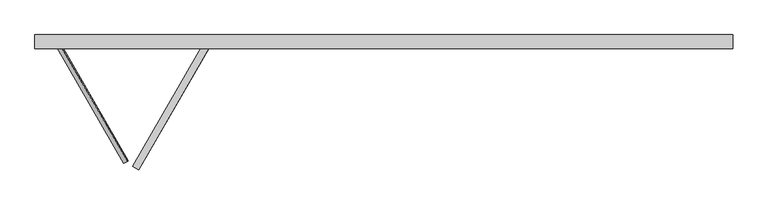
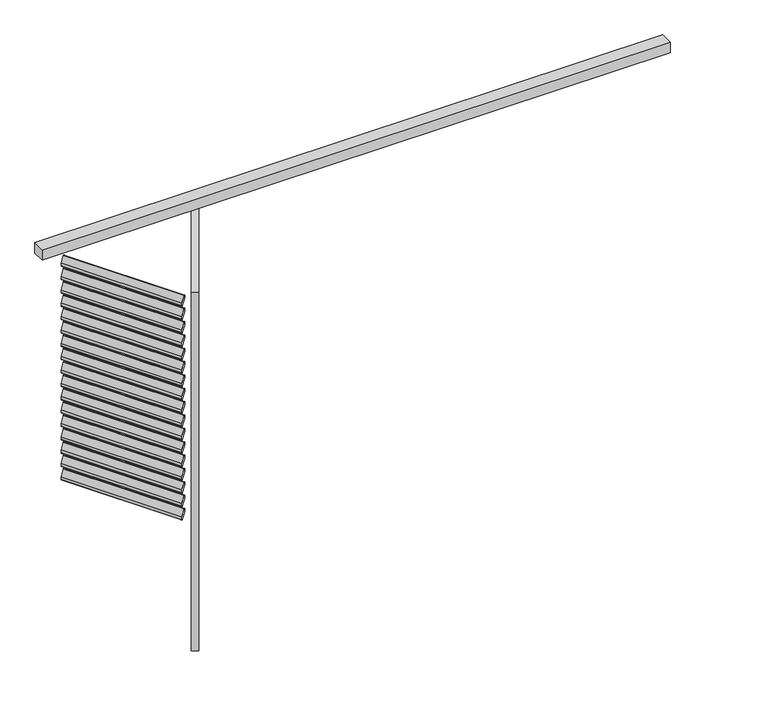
"""IFC4 building model written with IfcOpenShell, lengths in millimetres: proxy geometry, Renson_Amani_Loggia_Paro_Aluminium_Folding : Renson_Amani_Loggia_Paro_Aluminium_Folding."""

from ifc_helpers import new_model, si_unit, point, frame, frame_2d, origin, place, context, project, spatial, polyline, circle_curve, trimmed, segment, composite_curve, outline, extrude, source, transform, mapped, element, save


def generic_models_ddcf315a(model_context):
    return source(origin(), model_context, "Body", "SweptSolid", [
        extrude(outline(polyline([(3900.0, 776.1215932), (3900.0, 696.1215932), (-100.0, 696.1215932), (-100.0, 776.1215932), (3900.0, 776.1215932)])), frame((0.0, 0.0, 2465.0), z_axis=(0.0, 0.0, 1.0), x_axis=(1.0, 0.0, 0.0)), (0.0, 0.0, 1.0), 70.0),
        extrude(outline(composite_curve([segment(trimmed(circle_curve(frame_2d((44.0658831, -3.0)), 3.0), [point((44.0658831, 0.0))], [point((45.6998002, -5.5160117))], False, "CARTESIAN"), True, "CONTINUOUS"), segment(polyline([(45.6998002, -5.5160117), (30.3011505, -15.5160117)]), True, "CONTINUOUS"), segment(trimmed(circle_curve(frame_2d((28.6672334, -13.0)), 3.0), [point((30.3011505, -15.5160117))], [point((28.6672334, -16.0))], False, "CARTESIAN"), True, "CONTINUOUS"), segment(polyline([(28.6672334, -16.0), (-15.3986496, -16.0)]), True, "CONTINUOUS"), segment(trimmed(circle_curve(frame_2d((-15.3986496, -13.0)), 3.0), [point((-15.3986496, -16.0))], [point((-17.0325667, -10.4839883))], False, "CARTESIAN"), True, "CONTINUOUS"), segment(polyline([(-17.0325667, -10.4839883), (-0.8886405, 0.0), (44.0658831, 0.0)]), True, "CONTINUOUS")], self_intersect=False)), frame((508.9546074, 37.7168064, 2397.3359298), z_axis=(0.5000000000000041, 0.8660254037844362, 0.0), x_axis=(-0.47167124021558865, 0.2723195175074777, 0.8386705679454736)), (0.0, 0.0, 1.0), 770.0),
        extrude(outline(composite_curve([segment(trimmed(circle_curve(frame_2d((44.0658831, -3.0)), 3.0), [point((44.0658831, 0.0))], [point((45.6998002, -5.5160117))], False, "CARTESIAN"), True, "CONTINUOUS"), segment(polyline([(45.6998002, -5.5160117), (30.3011505, -15.5160117)]), True, "CONTINUOUS"), segment(trimmed(circle_curve(frame_2d((28.6672334, -13.0)), 3.0), [point((30.3011505, -15.5160117))], [point((28.6672334, -16.0))], False, "CARTESIAN"), True, "CONTINUOUS"), segment(polyline([(28.6672334, -16.0), (-15.3986496, -16.0)]), True, "CONTINUOUS"), segment(trimmed(circle_curve(frame_2d((-15.3986496, -13.0)), 3.0), [point((-15.3986496, -16.0))], [point((-17.0325667, -10.4839883))], False, "CARTESIAN"), True, "CONTINUOUS"), segment(polyline([(-17.0325667, -10.4839883), (-0.8886405, 0.0), (44.0658831, 0.0)]), True, "CONTINUOUS")], self_intersect=False)), frame((508.9546074, 37.7168064, 2307.3359298), z_axis=(0.5000000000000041, 0.8660254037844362, 0.0), x_axis=(-0.47167124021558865, 0.2723195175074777, 0.8386705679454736)), (0.0, 0.0, 1.0), 770.0),
        extrude(outline(composite_curve([segment(trimmed(circle_curve(frame_2d((44.0658831, -3.0)), 3.0), [point((44.0658831, 0.0))], [point((45.6998002, -5.5160117))], False, "CARTESIAN"), True, "CONTINUOUS"), segment(polyline([(45.6998002, -5.5160117), (30.3011505, -15.5160117)]), True, "CONTINUOUS"), segment(trimmed(circle_curve(frame_2d((28.6672334, -13.0)), 3.0), [point((30.3011505, -15.5160117))], [point((28.6672334, -16.0))], False, "CARTESIAN"), True, "CONTINUOUS"), segment(polyline([(28.6672334, -16.0), (-15.3986496, -16.0)]), True, "CONTINUOUS"), segment(trimmed(circle_curve(frame_2d((-15.3986496, -13.0)), 3.0), [point((-15.3986496, -16.0))], [point((-17.0325667, -10.4839883))], False, "CARTESIAN"), True, "CONTINUOUS"), segment(polyline([(-17.0325667, -10.4839883), (-0.8886405, 0.0), (44.0658831, 0.0)]), True, "CONTINUOUS")], self_intersect=False)), frame((508.9546074, 37.7168064, 2217.3359298), z_axis=(0.5000000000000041, 0.8660254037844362, 0.0), x_axis=(-0.47167124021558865, 0.2723195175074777, 0.8386705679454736)), (0.0, 0.0, 1.0), 770.0),
        extrude(outline(composite_curve([segment(trimmed(circle_curve(frame_2d((44.0658831, -3.0)), 3.0), [point((44.0658831, 0.0))], [point((45.6998002, -5.5160117))], False, "CARTESIAN"), True, "CONTINUOUS"), segment(polyline([(45.6998002, -5.5160117), (30.3011505, -15.5160117)]), True, "CONTINUOUS"), segment(trimmed(circle_curve(frame_2d((28.6672334, -13.0)), 3.0), [point((30.3011505, -15.5160117))], [point((28.6672334, -16.0))], False, "CARTESIAN"), True, "CONTINUOUS"), segment(polyline([(28.6672334, -16.0), (-15.3986496, -16.0)]), True, "CONTINUOUS"), segment(trimmed(circle_curve(frame_2d((-15.3986496, -13.0)), 3.0), [point((-15.3986496, -16.0))], [point((-17.0325667, -10.4839883))], False, "CARTESIAN"), True, "CONTINUOUS"), segment(polyline([(-17.0325667, -10.4839883), (-0.8886405, 0.0), (44.0658831, 0.0)]), True, "CONTINUOUS")], self_intersect=False)), frame((508.9546074, 37.7168064, 2127.3359298), z_axis=(0.5000000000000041, 0.8660254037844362, 0.0), x_axis=(-0.47167124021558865, 0.2723195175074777, 0.8386705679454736)), (0.0, 0.0, 1.0), 770.0),
        extrude(outline(composite_curve([segment(trimmed(circle_curve(frame_2d((44.0658831, -3.0)), 3.0), [point((44.0658831, 0.0))], [point((45.6998002, -5.5160117))], False, "CARTESIAN"), True, "CONTINUOUS"), segment(polyline([(45.6998002, -5.5160117), (30.3011505, -15.5160117)]), True, "CONTINUOUS"), segment(trimmed(circle_curve(frame_2d((28.6672334, -13.0)), 3.0), [point((30.3011505, -15.5160117))], [point((28.6672334, -16.0))], False, "CARTESIAN"), True, "CONTINUOUS"), segment(polyline([(28.6672334, -16.0), (-15.3986496, -16.0)]), True, "CONTINUOUS"), segment(trimmed(circle_curve(frame_2d((-15.3986496, -13.0)), 3.0), [point((-15.3986496, -16.0))], [point((-17.0325667, -10.4839883))], False, "CARTESIAN"), True, "CONTINUOUS"), segment(polyline([(-17.0325667, -10.4839883), (-0.8886405, 0.0), (44.0658831, 0.0)]), True, "CONTINUOUS")], self_intersect=False)), frame((508.9546074, 37.7168064, 2037.3359298), z_axis=(0.5000000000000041, 0.8660254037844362, 0.0), x_axis=(-0.47167124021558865, 0.2723195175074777, 0.8386705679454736)), (0.0, 0.0, 1.0), 770.0),
        extrude(outline(composite_curve([segment(trimmed(circle_curve(frame_2d((44.0658831, -3.0)), 3.0), [point((44.0658831, 0.0))], [point((45.6998002, -5.5160117))], False, "CARTESIAN"), True, "CONTINUOUS"), segment(polyline([(45.6998002, -5.5160117), (30.3011505, -15.5160117)]), True, "CONTINUOUS"), segment(trimmed(circle_curve(frame_2d((28.6672334, -13.0)), 3.0), [point((30.3011505, -15.5160117))], [point((28.6672334, -16.0))], False, "CARTESIAN"), True, "CONTINUOUS"), segment(polyline([(28.6672334, -16.0), (-15.3986496, -16.0)]), True, "CONTINUOUS"), segment(trimmed(circle_curve(frame_2d((-15.3986496, -13.0)), 3.0), [point((-15.3986496, -16.0))], [point((-17.0325667, -10.4839883))], False, "CARTESIAN"), True, "CONTINUOUS"), segment(polyline([(-17.0325667, -10.4839883), (-0.8886405, 0.0), (44.0658831, 0.0)]), True, "CONTINUOUS")], self_intersect=False)), frame((508.9546074, 37.7168064, 1947.3359298), z_axis=(0.5000000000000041, 0.8660254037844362, 0.0), x_axis=(-0.47167124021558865, 0.2723195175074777, 0.8386705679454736)), (0.0, 0.0, 1.0), 770.0),
        extrude(outline(composite_curve([segment(trimmed(circle_curve(frame_2d((44.0658831, -3.0)), 3.0), [point((44.0658831, 0.0))], [point((45.6998002, -5.5160117))], False, "CARTESIAN"), True, "CONTINUOUS"), segment(polyline([(45.6998002, -5.5160117), (30.3011505, -15.5160117)]), True, "CONTINUOUS"), segment(trimmed(circle_curve(frame_2d((28.6672334, -13.0)), 3.0), [point((30.3011505, -15.5160117))], [point((28.6672334, -16.0))], False, "CARTESIAN"), True, "CONTINUOUS"), segment(polyline([(28.6672334, -16.0), (-15.3986496, -16.0)]), True, "CONTINUOUS"), segment(trimmed(circle_curve(frame_2d((-15.3986496, -13.0)), 3.0), [point((-15.3986496, -16.0))], [point((-17.0325667, -10.4839883))], False, "CARTESIAN"), True, "CONTINUOUS"), segment(polyline([(-17.0325667, -10.4839883), (-0.8886405, 0.0), (44.0658831, 0.0)]), True, "CONTINUOUS")], self_intersect=False)), frame((508.9546074, 37.7168064, 1857.3359298), z_axis=(0.5000000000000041, 0.8660254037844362, 0.0), x_axis=(-0.47167124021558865, 0.2723195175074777, 0.8386705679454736)), (0.0, 0.0, 1.0), 770.0),
        extrude(outline(composite_curve([segment(trimmed(circle_curve(frame_2d((44.0658831, -3.0)), 3.0), [point((44.0658831, 0.0))], [point((45.6998002, -5.5160117))], False, "CARTESIAN"), True, "CONTINUOUS"), segment(polyline([(45.6998002, -5.5160117), (30.3011505, -15.5160117)]), True, "CONTINUOUS"), segment(trimmed(circle_curve(frame_2d((28.6672334, -13.0)), 3.0), [point((30.3011505, -15.5160117))], [point((28.6672334, -16.0))], False, "CARTESIAN"), True, "CONTINUOUS"), segment(polyline([(28.6672334, -16.0), (-15.3986496, -16.0)]), True, "CONTINUOUS"), segment(trimmed(circle_curve(frame_2d((-15.3986496, -13.0)), 3.0), [point((-15.3986496, -16.0))], [point((-17.0325667, -10.4839883))], False, "CARTESIAN"), True, "CONTINUOUS"), segment(polyline([(-17.0325667, -10.4839883), (-0.8886405, 0.0), (44.0658831, 0.0)]), True, "CONTINUOUS")], self_intersect=False)), frame((508.9546074, 37.7168064, 1767.3359298), z_axis=(0.5000000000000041, 0.8660254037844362, 0.0), x_axis=(-0.47167124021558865, 0.2723195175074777, 0.8386705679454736)), (0.0, 0.0, 1.0), 770.0),
        extrude(outline(composite_curve([segment(trimmed(circle_curve(frame_2d((44.0658831, -3.0)), 3.0), [point((44.0658831, 0.0))], [point((45.6998002, -5.5160117))], False, "CARTESIAN"), True, "CONTINUOUS"), segment(polyline([(45.6998002, -5.5160117), (30.3011505, -15.5160117)]), True, "CONTINUOUS"), segment(trimmed(circle_curve(frame_2d((28.6672334, -13.0)), 3.0), [point((30.3011505, -15.5160117))], [point((28.6672334, -16.0))], False, "CARTESIAN"), True, "CONTINUOUS"), segment(polyline([(28.6672334, -16.0), (-15.3986496, -16.0)]), True, "CONTINUOUS"), segment(trimmed(circle_curve(frame_2d((-15.3986496, -13.0)), 3.0), [point((-15.3986496, -16.0))], [point((-17.0325667, -10.4839883))], False, "CARTESIAN"), True, "CONTINUOUS"), segment(polyline([(-17.0325667, -10.4839883), (-0.8886405, 0.0), (44.0658831, 0.0)]), True, "CONTINUOUS")], self_intersect=False)), frame((508.9546074, 37.7168064, 1677.3359298), z_axis=(0.5000000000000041, 0.8660254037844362, 0.0), x_axis=(-0.47167124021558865, 0.2723195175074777, 0.8386705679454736)), (0.0, 0.0, 1.0), 770.0),
        extrude(outline(composite_curve([segment(trimmed(circle_curve(frame_2d((44.0658831, -3.0)), 3.0), [point((44.0658831, 0.0))], [point((45.6998002, -5.5160117))], False, "CARTESIAN"), True, "CONTINUOUS"), segment(polyline([(45.6998002, -5.5160117), (30.3011505, -15.5160117)]), True, "CONTINUOUS"), segment(trimmed(circle_curve(frame_2d((28.6672334, -13.0)), 3.0), [point((30.3011505, -15.5160117))], [point((28.6672334, -16.0))], False, "CARTESIAN"), True, "CONTINUOUS"), segment(polyline([(28.6672334, -16.0), (-15.3986496, -16.0)]), True, "CONTINUOUS"), segment(trimmed(circle_curve(frame_2d((-15.3986496, -13.0)), 3.0), [point((-15.3986496, -16.0))], [point((-17.0325667, -10.4839883))], False, "CARTESIAN"), True, "CONTINUOUS"), segment(polyline([(-17.0325667, -10.4839883), (-0.8886405, 0.0), (44.0658831, 0.0)]), True, "CONTINUOUS")], self_intersect=False)), frame((508.9546074, 37.7168064, 1587.3359298), z_axis=(0.5000000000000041, 0.8660254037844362, 0.0), x_axis=(-0.47167124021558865, 0.2723195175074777, 0.8386705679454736)), (0.0, 0.0, 1.0), 770.0),
        extrude(outline(composite_curve([segment(trimmed(circle_curve(frame_2d((44.0658831, -3.0)), 3.0), [point((44.0658831, 0.0))], [point((45.6998002, -5.5160117))], False, "CARTESIAN"), True, "CONTINUOUS"), segment(polyline([(45.6998002, -5.5160117), (30.3011505, -15.5160117)]), True, "CONTINUOUS"), segment(trimmed(circle_curve(frame_2d((28.6672334, -13.0)), 3.0), [point((30.3011505, -15.5160117))], [point((28.6672334, -16.0))], False, "CARTESIAN"), True, "CONTINUOUS"), segment(polyline([(28.6672334, -16.0), (-15.3986496, -16.0)]), True, "CONTINUOUS"), segment(trimmed(circle_curve(frame_2d((-15.3986496, -13.0)), 3.0), [point((-15.3986496, -16.0))], [point((-17.0325667, -10.4839883))], False, "CARTESIAN"), True, "CONTINUOUS"), segment(polyline([(-17.0325667, -10.4839883), (-0.8886405, 0.0), (44.0658831, 0.0)]), True, "CONTINUOUS")], self_intersect=False)), frame((508.9546074, 37.7168064, 1497.3359298), z_axis=(0.5000000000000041, 0.8660254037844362, 0.0), x_axis=(-0.47167124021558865, 0.2723195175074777, 0.8386705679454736)), (0.0, 0.0, 1.0), 770.0),
        extrude(outline(composite_curve([segment(trimmed(circle_curve(frame_2d((44.0658831, -3.0)), 3.0), [point((44.0658831, 0.0))], [point((45.6998002, -5.5160117))], False, "CARTESIAN"), True, "CONTINUOUS"), segment(polyline([(45.6998002, -5.5160117), (30.3011505, -15.5160117)]), True, "CONTINUOUS"), segment(trimmed(circle_curve(frame_2d((28.6672334, -13.0)), 3.0), [point((30.3011505, -15.5160117))], [point((28.6672334, -16.0))], False, "CARTESIAN"), True, "CONTINUOUS"), segment(polyline([(28.6672334, -16.0), (-15.3986496, -16.0)]), True, "CONTINUOUS"), segment(trimmed(circle_curve(frame_2d((-15.3986496, -13.0)), 3.0), [point((-15.3986496, -16.0))], [point((-17.0325667, -10.4839883))], False, "CARTESIAN"), True, "CONTINUOUS"), segment(polyline([(-17.0325667, -10.4839883), (-0.8886405, 0.0), (44.0658831, 0.0)]), True, "CONTINUOUS")], self_intersect=False)), frame((508.9546074, 37.7168064, 1407.3359298), z_axis=(0.5000000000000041, 0.8660254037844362, 0.0), x_axis=(-0.47167124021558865, 0.2723195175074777, 0.8386705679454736)), (0.0, 0.0, 1.0), 770.0),
        extrude(outline(composite_curve([segment(trimmed(circle_curve(frame_2d((44.0658831, -3.0)), 3.0), [point((44.0658831, 0.0))], [point((45.6998002, -5.5160117))], False, "CARTESIAN"), True, "CONTINUOUS"), segment(polyline([(45.6998002, -5.5160117), (30.3011505, -15.5160117)]), True, "CONTINUOUS"), segment(trimmed(circle_curve(frame_2d((28.6672334, -13.0)), 3.0), [point((30.3011505, -15.5160117))], [point((28.6672334, -16.0))], False, "CARTESIAN"), True, "CONTINUOUS"), segment(polyline([(28.6672334, -16.0), (-15.3986496, -16.0)]), True, "CONTINUOUS"), segment(trimmed(circle_curve(frame_2d((-15.3986496, -13.0)), 3.0), [point((-15.3986496, -16.0))], [point((-17.0325667, -10.4839883))], False, "CARTESIAN"), True, "CONTINUOUS"), segment(polyline([(-17.0325667, -10.4839883), (-0.8886405, 0.0), (44.0658831, 0.0)]), True, "CONTINUOUS")], self_intersect=False)), frame((508.9546074, 37.7168064, 1317.3359298), z_axis=(0.5000000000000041, 0.8660254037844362, 0.0), x_axis=(-0.47167124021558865, 0.2723195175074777, 0.8386705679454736)), (0.0, 0.0, 1.0), 770.0),
        extrude(outline(composite_curve([segment(trimmed(circle_curve(frame_2d((44.0658831, -3.0)), 3.0), [point((44.0658831, 0.0))], [point((45.6998002, -5.5160117))], False, "CARTESIAN"), True, "CONTINUOUS"), segment(polyline([(45.6998002, -5.5160117), (30.3011505, -15.5160117)]), True, "CONTINUOUS"), segment(trimmed(circle_curve(frame_2d((28.6672334, -13.0)), 3.0), [point((30.3011505, -15.5160117))], [point((28.6672334, -16.0))], False, "CARTESIAN"), True, "CONTINUOUS"), segment(polyline([(28.6672334, -16.0), (-15.3986496, -16.0)]), True, "CONTINUOUS"), segment(trimmed(circle_curve(frame_2d((-15.3986496, -13.0)), 3.0), [point((-15.3986496, -16.0))], [point((-17.0325667, -10.4839883))], False, "CARTESIAN"), True, "CONTINUOUS"), segment(polyline([(-17.0325667, -10.4839883), (-0.8886405, 0.0), (44.0658831, 0.0)]), True, "CONTINUOUS")], self_intersect=False)), frame((508.9546074, 37.7168064, 1227.3359298), z_axis=(0.5000000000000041, 0.8660254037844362, 0.0), x_axis=(-0.47167124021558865, 0.2723195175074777, 0.8386705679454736)), (0.0, 0.0, 1.0), 770.0),
        extrude(outline(composite_curve([segment(trimmed(circle_curve(frame_2d((44.0658831, -3.0)), 3.0), [point((44.0658831, 0.0))], [point((45.6998002, -5.5160117))], False, "CARTESIAN"), True, "CONTINUOUS"), segment(polyline([(45.6998002, -5.5160117), (30.3011505, -15.5160117)]), True, "CONTINUOUS"), segment(trimmed(circle_curve(frame_2d((28.6672334, -13.0)), 3.0), [point((30.3011505, -15.5160117))], [point((28.6672334, -16.0))], False, "CARTESIAN"), True, "CONTINUOUS"), segment(polyline([(28.6672334, -16.0), (-15.3986496, -16.0)]), True, "CONTINUOUS"), segment(trimmed(circle_curve(frame_2d((-15.3986496, -13.0)), 3.0), [point((-15.3986496, -16.0))], [point((-17.0325667, -10.4839883))], False, "CARTESIAN"), True, "CONTINUOUS"), segment(polyline([(-17.0325667, -10.4839883), (-0.8886405, 0.0), (44.0658831, 0.0)]), True, "CONTINUOUS")], self_intersect=False)), frame((508.9546074, 37.7168064, 1137.3359298), z_axis=(0.5000000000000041, 0.8660254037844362, 0.0), x_axis=(-0.47167124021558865, 0.2723195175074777, 0.8386705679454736)), (0.0, 0.0, 1.0), 770.0),
        extrude(outline(composite_curve([segment(trimmed(circle_curve(frame_2d((44.0658831, -3.0)), 3.0), [point((44.0658831, 0.0))], [point((45.6998002, -5.5160117))], False, "CARTESIAN"), True, "CONTINUOUS"), segment(polyline([(45.6998002, -5.5160117), (30.3011505, -15.5160117)]), True, "CONTINUOUS"), segment(trimmed(circle_curve(frame_2d((28.6672334, -13.0)), 3.0), [point((30.3011505, -15.5160117))], [point((28.6672334, -16.0))], False, "CARTESIAN"), True, "CONTINUOUS"), segment(polyline([(28.6672334, -16.0), (-15.3986496, -16.0)]), True, "CONTINUOUS"), segment(trimmed(circle_curve(frame_2d((-15.3986496, -13.0)), 3.0), [point((-15.3986496, -16.0))], [point((-17.0325667, -10.4839883))], False, "CARTESIAN"), True, "CONTINUOUS"), segment(polyline([(-17.0325667, -10.4839883), (-0.8886405, 0.0), (44.0658831, 0.0)]), True, "CONTINUOUS")], self_intersect=False)), frame((508.9546074, 37.7168064, 1047.3359298), z_axis=(0.5000000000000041, 0.8660254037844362, 0.0), x_axis=(-0.47167124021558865, 0.2723195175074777, 0.8386705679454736)), (0.0, 0.0, 1.0), 770.0),
        extrude(outline(composite_curve([segment(trimmed(circle_curve(frame_2d((44.0658831, -3.0)), 3.0), [point((44.0658831, 0.0))], [point((45.6998002, -5.5160117))], False, "CARTESIAN"), True, "CONTINUOUS"), segment(polyline([(45.6998002, -5.5160117), (30.3011505, -15.5160117)]), True, "CONTINUOUS"), segment(trimmed(circle_curve(frame_2d((28.6672334, -13.0)), 3.0), [point((30.3011505, -15.5160117))], [point((28.6672334, -16.0))], False, "CARTESIAN"), True, "CONTINUOUS"), segment(polyline([(28.6672334, -16.0), (-15.3986496, -16.0)]), True, "CONTINUOUS"), segment(trimmed(circle_curve(frame_2d((-15.3986496, -13.0)), 3.0), [point((-15.3986496, -16.0))], [point((-17.0325667, -10.4839883))], False, "CARTESIAN"), True, "CONTINUOUS"), segment(polyline([(-17.0325667, -10.4839883), (-0.8886405, 0.0), (44.0658831, 0.0)]), True, "CONTINUOUS")], self_intersect=False)), frame((508.9546074, 37.7168064, 957.3359298), z_axis=(0.5000000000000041, 0.8660254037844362, 0.0), x_axis=(-0.47167124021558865, 0.2723195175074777, 0.8386705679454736)), (0.0, 0.0, 1.0), 770.0),
        extrude(outline(composite_curve([segment(trimmed(circle_curve(frame_2d((44.0658831, -3.0)), 3.0), [point((44.0658831, 0.0))], [point((45.6998002, -5.5160117))], False, "CARTESIAN"), True, "CONTINUOUS"), segment(polyline([(45.6998002, -5.5160117), (30.3011505, -15.5160117)]), True, "CONTINUOUS"), segment(trimmed(circle_curve(frame_2d((28.6672334, -13.0)), 3.0), [point((30.3011505, -15.5160117))], [point((28.6672334, -16.0))], False, "CARTESIAN"), True, "CONTINUOUS"), segment(polyline([(28.6672334, -16.0), (-15.3986496, -16.0)]), True, "CONTINUOUS"), segment(trimmed(circle_curve(frame_2d((-15.3986496, -13.0)), 3.0), [point((-15.3986496, -16.0))], [point((-17.0325667, -10.4839883))], False, "CARTESIAN"), True, "CONTINUOUS"), segment(polyline([(-17.0325667, -10.4839883), (-0.8886405, 0.0), (44.0658831, 0.0)]), True, "CONTINUOUS")], self_intersect=False)), frame((508.9546074, 37.7168064, 867.3359298), z_axis=(0.5000000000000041, 0.8660254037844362, 0.0), x_axis=(-0.47167124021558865, 0.2723195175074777, 0.8386705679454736)), (0.0, 0.0, 1.0), 770.0),
        extrude(outline(composite_curve([segment(trimmed(circle_curve(frame_2d((44.0658831, -3.0)), 3.0), [point((44.0658831, 0.0))], [point((45.6998002, -5.5160117))], False, "CARTESIAN"), True, "CONTINUOUS"), segment(polyline([(45.6998002, -5.5160117), (30.3011505, -15.5160117)]), True, "CONTINUOUS"), segment(trimmed(circle_curve(frame_2d((28.6672334, -13.0)), 3.0), [point((30.3011505, -15.5160117))], [point((28.6672334, -16.0))], False, "CARTESIAN"), True, "CONTINUOUS"), segment(polyline([(28.6672334, -16.0), (-15.3986496, -16.0)]), True, "CONTINUOUS"), segment(trimmed(circle_curve(frame_2d((-15.3986496, -13.0)), 3.0), [point((-15.3986496, -16.0))], [point((-17.0325667, -10.4839883))], False, "CARTESIAN"), True, "CONTINUOUS"), segment(polyline([(-17.0325667, -10.4839883), (-0.8886405, 0.0), (44.0658831, 0.0)]), True, "CONTINUOUS")], self_intersect=False)), frame((508.9546074, 37.7168064, 777.3359298), z_axis=(0.5000000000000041, 0.8660254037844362, 0.0), x_axis=(-0.47167124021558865, 0.2723195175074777, 0.8386705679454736)), (0.0, 0.0, 1.0), 770.0),
        extrude(outline(composite_curve([segment(trimmed(circle_curve(frame_2d((44.0658831, -3.0)), 3.0), [point((44.0658831, 0.0))], [point((45.6998002, -5.5160117))], False, "CARTESIAN"), True, "CONTINUOUS"), segment(polyline([(45.6998002, -5.5160117), (30.3011505, -15.5160117)]), True, "CONTINUOUS"), segment(trimmed(circle_curve(frame_2d((28.6672334, -13.0)), 3.0), [point((30.3011505, -15.5160117))], [point((28.6672334, -16.0))], False, "CARTESIAN"), True, "CONTINUOUS"), segment(polyline([(28.6672334, -16.0), (-15.3986496, -16.0)]), True, "CONTINUOUS"), segment(trimmed(circle_curve(frame_2d((-15.3986496, -13.0)), 3.0), [point((-15.3986496, -16.0))], [point((-17.0325667, -10.4839883))], False, "CARTESIAN"), True, "CONTINUOUS"), segment(polyline([(-17.0325667, -10.4839883), (-0.8886405, 0.0), (44.0658831, 0.0)]), True, "CONTINUOUS")], self_intersect=False)), frame((508.9546074, 37.7168064, 687.3359298), z_axis=(0.5000000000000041, 0.8660254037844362, 0.0), x_axis=(-0.47167124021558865, 0.2723195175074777, 0.8386705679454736)), (0.0, 0.0, 1.0), 770.0),
        extrude(outline(composite_curve([segment(trimmed(circle_curve(frame_2d((44.0658831, -3.0)), 3.0), [point((44.0658831, 0.0))], [point((45.6998002, -5.5160117))], False, "CARTESIAN"), True, "CONTINUOUS"), segment(polyline([(45.6998002, -5.5160117), (30.3011505, -15.5160117)]), True, "CONTINUOUS"), segment(trimmed(circle_curve(frame_2d((28.6672334, -13.0)), 3.0), [point((30.3011505, -15.5160117))], [point((28.6672334, -16.0))], False, "CARTESIAN"), True, "CONTINUOUS"), segment(polyline([(28.6672334, -16.0), (-15.3986496, -16.0)]), True, "CONTINUOUS"), segment(trimmed(circle_curve(frame_2d((-15.3986496, -13.0)), 3.0), [point((-15.3986496, -16.0))], [point((-17.0325667, -10.4839883))], False, "CARTESIAN"), True, "CONTINUOUS"), segment(polyline([(-17.0325667, -10.4839883), (-0.8886405, 0.0), (44.0658831, 0.0)]), True, "CONTINUOUS")], self_intersect=False)), frame((508.9546074, 37.7168064, 597.3359298), z_axis=(0.5000000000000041, 0.8660254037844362, 0.0), x_axis=(-0.47167124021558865, 0.2723195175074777, 0.8386705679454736)), (0.0, 0.0, 1.0), 770.0),
        extrude(outline(composite_curve([segment(trimmed(circle_curve(frame_2d((44.0658831, -3.0)), 3.0), [point((44.0658831, 0.0))], [point((45.6998002, -5.5160117))], False, "CARTESIAN"), True, "CONTINUOUS"), segment(polyline([(45.6998002, -5.5160117), (30.3011505, -15.5160117)]), True, "CONTINUOUS"), segment(trimmed(circle_curve(frame_2d((28.6672334, -13.0)), 3.0), [point((30.3011505, -15.5160117))], [point((28.6672334, -16.0))], False, "CARTESIAN"), True, "CONTINUOUS"), segment(polyline([(28.6672334, -16.0), (-15.3986496, -16.0)]), True, "CONTINUOUS"), segment(trimmed(circle_curve(frame_2d((-15.3986496, -13.0)), 3.0), [point((-15.3986496, -16.0))], [point((-17.0325667, -10.4839883))], False, "CARTESIAN"), True, "CONTINUOUS"), segment(polyline([(-17.0325667, -10.4839883), (-0.8886405, 0.0), (44.0658831, 0.0)]), True, "CONTINUOUS")], self_intersect=False)), frame((508.9546074, 37.7168064, 507.3359298), z_axis=(0.5000000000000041, 0.8660254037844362, 0.0), x_axis=(-0.47167124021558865, 0.2723195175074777, 0.8386705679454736)), (0.0, 0.0, 1.0), 770.0),
        extrude(outline(composite_curve([segment(trimmed(circle_curve(frame_2d((44.0658831, -3.0)), 3.0), [point((44.0658831, 0.0))], [point((45.6998002, -5.5160117))], False, "CARTESIAN"), True, "CONTINUOUS"), segment(polyline([(45.6998002, -5.5160117), (30.3011505, -15.5160117)]), True, "CONTINUOUS"), segment(trimmed(circle_curve(frame_2d((28.6672334, -13.0)), 3.0), [point((30.3011505, -15.5160117))], [point((28.6672334, -16.0))], False, "CARTESIAN"), True, "CONTINUOUS"), segment(polyline([(28.6672334, -16.0), (-15.3986496, -16.0)]), True, "CONTINUOUS"), segment(trimmed(circle_curve(frame_2d((-15.3986496, -13.0)), 3.0), [point((-15.3986496, -16.0))], [point((-17.0325667, -10.4839883))], False, "CARTESIAN"), True, "CONTINUOUS"), segment(polyline([(-17.0325667, -10.4839883), (-0.8886405, 0.0), (44.0658831, 0.0)]), True, "CONTINUOUS")], self_intersect=False)), frame((508.9546074, 37.7168064, 417.3359298), z_axis=(0.5000000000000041, 0.8660254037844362, 0.0), x_axis=(-0.47167124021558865, 0.2723195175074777, 0.8386705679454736)), (0.0, 0.0, 1.0), 770.0),
        extrude(outline(composite_curve([segment(trimmed(circle_curve(frame_2d((44.0658831, -3.0)), 3.0), [point((44.0658831, 0.0))], [point((45.6998002, -5.5160117))], False, "CARTESIAN"), True, "CONTINUOUS"), segment(polyline([(45.6998002, -5.5160117), (30.3011505, -15.5160117)]), True, "CONTINUOUS"), segment(trimmed(circle_curve(frame_2d((28.6672334, -13.0)), 3.0), [point((30.3011505, -15.5160117))], [point((28.6672334, -16.0))], False, "CARTESIAN"), True, "CONTINUOUS"), segment(polyline([(28.6672334, -16.0), (-15.3986496, -16.0)]), True, "CONTINUOUS"), segment(trimmed(circle_curve(frame_2d((-15.3986496, -13.0)), 3.0), [point((-15.3986496, -16.0))], [point((-17.0325667, -10.4839883))], False, "CARTESIAN"), True, "CONTINUOUS"), segment(polyline([(-17.0325667, -10.4839883), (-0.8886405, 0.0), (44.0658831, 0.0)]), True, "CONTINUOUS")], self_intersect=False)), frame((508.9546074, 37.7168064, 327.3359298), z_axis=(0.5000000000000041, 0.8660254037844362, 0.0), x_axis=(-0.47167124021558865, 0.2723195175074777, 0.8386705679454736)), (0.0, 0.0, 1.0), 770.0),
        extrude(outline(composite_curve([segment(trimmed(circle_curve(frame_2d((44.0658831, -3.0)), 3.0), [point((44.0658831, 0.0))], [point((45.6998002, -5.5160117))], False, "CARTESIAN"), True, "CONTINUOUS"), segment(polyline([(45.6998002, -5.5160117), (30.3011505, -15.5160117)]), True, "CONTINUOUS"), segment(trimmed(circle_curve(frame_2d((28.6672334, -13.0)), 3.0), [point((30.3011505, -15.5160117))], [point((28.6672334, -16.0))], False, "CARTESIAN"), True, "CONTINUOUS"), segment(polyline([(28.6672334, -16.0), (-15.3986496, -16.0)]), True, "CONTINUOUS"), segment(trimmed(circle_curve(frame_2d((-15.3986496, -13.0)), 3.0), [point((-15.3986496, -16.0))], [point((-17.0325667, -10.4839883))], False, "CARTESIAN"), True, "CONTINUOUS"), segment(polyline([(-17.0325667, -10.4839883), (-0.8886405, 0.0), (44.0658831, 0.0)]), True, "CONTINUOUS")], self_intersect=False)), frame((508.9546074, 37.7168064, 237.3359298), z_axis=(0.5000000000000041, 0.8660254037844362, 0.0), x_axis=(-0.47167124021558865, 0.2723195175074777, 0.8386705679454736)), (0.0, 0.0, 1.0), 770.0),
        extrude(outline(composite_curve([segment(trimmed(circle_curve(frame_2d((44.0658831, -3.0)), 3.0), [point((44.0658831, 0.0))], [point((45.6998002, -5.5160117))], False, "CARTESIAN"), True, "CONTINUOUS"), segment(polyline([(45.6998002, -5.5160117), (30.3011505, -15.5160117)]), True, "CONTINUOUS"), segment(trimmed(circle_curve(frame_2d((28.6672334, -13.0)), 3.0), [point((30.3011505, -15.5160117))], [point((28.6672334, -16.0))], False, "CARTESIAN"), True, "CONTINUOUS"), segment(polyline([(28.6672334, -16.0), (-15.3986496, -16.0)]), True, "CONTINUOUS"), segment(trimmed(circle_curve(frame_2d((-15.3986496, -13.0)), 3.0), [point((-15.3986496, -16.0))], [point((-17.0325667, -10.4839883))], False, "CARTESIAN"), True, "CONTINUOUS"), segment(polyline([(-17.0325667, -10.4839883), (-0.8886405, 0.0), (44.0658831, 0.0)]), True, "CONTINUOUS")], self_intersect=False)), frame((508.9546074, 37.7168064, 147.3359298), z_axis=(0.5000000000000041, 0.8660254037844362, 0.0), x_axis=(-0.47167124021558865, 0.2723195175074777, 0.8386705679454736)), (0.0, 0.0, 1.0), 770.0),
        extrude(outline(polyline([(2380.0, -40.0), (-40.0, -40.0), (-40.0, 809.9999999), (2380.0, 809.9999999), (2380.0, -40.0)]), holes=[polyline([(2340.0, 770.0), (0.0, 770.0), (0.0, 0.0), (2340.0, 0.0), (2340.0, 770.0)])]), frame((514.2820323, 34.6410162, 85.0), z_axis=(-0.8660254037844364, 0.5000000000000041, 0.0), x_axis=(0.0, 0.0, 1.0)), (0.0, 0.0, 1.0), 40.0),
        extrude(outline(composite_curve([segment(polyline([(-44.0658831, 0.0), (0.8886405, 0.0), (17.0325667, -10.4839883)]), True, "CONTINUOUS"), segment(trimmed(circle_curve(frame_2d((15.3986496, -13.0)), 3.0), [point((17.0325667, -10.4839883))], [point((15.3986496, -16.0))], False, "CARTESIAN"), True, "CONTINUOUS"), segment(polyline([(15.3986496, -16.0), (-28.6672334, -16.0)]), True, "CONTINUOUS"), segment(trimmed(circle_curve(frame_2d((-28.6672334, -13.0)), 3.0), [point((-28.6672334, -16.0))], [point((-30.3011505, -15.5160117))], False, "CARTESIAN"), True, "CONTINUOUS"), segment(polyline([(-30.3011505, -15.5160117), (-45.6998002, -5.5160117)]), True, "CONTINUOUS"), segment(trimmed(circle_curve(frame_2d((-44.0658831, -3.0)), 3.0), [point((-45.6998002, -5.5160117))], [point((-44.0658831, 0.0))], False, "CARTESIAN"), True, "CONTINUOUS")], self_intersect=False)), frame((410.3274249, 37.7168064, 2397.3359298), z_axis=(-0.5000000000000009, 0.8660254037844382, 0.0), x_axis=(-0.47167124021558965, -0.27231951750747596, -0.8386705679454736)), (0.0, 0.0, 1.0), 770.0),
        extrude(outline(composite_curve([segment(polyline([(-44.0658831, 0.0), (0.8886405, 0.0), (17.0325667, -10.4839883)]), True, "CONTINUOUS"), segment(trimmed(circle_curve(frame_2d((15.3986496, -13.0)), 3.0), [point((17.0325667, -10.4839883))], [point((15.3986496, -16.0))], False, "CARTESIAN"), True, "CONTINUOUS"), segment(polyline([(15.3986496, -16.0), (-28.6672334, -16.0)]), True, "CONTINUOUS"), segment(trimmed(circle_curve(frame_2d((-28.6672334, -13.0)), 3.0), [point((-28.6672334, -16.0))], [point((-30.3011505, -15.5160117))], False, "CARTESIAN"), True, "CONTINUOUS"), segment(polyline([(-30.3011505, -15.5160117), (-45.6998002, -5.5160117)]), True, "CONTINUOUS"), segment(trimmed(circle_curve(frame_2d((-44.0658831, -3.0)), 3.0), [point((-45.6998002, -5.5160117))], [point((-44.0658831, 0.0))], False, "CARTESIAN"), True, "CONTINUOUS")], self_intersect=False)), frame((410.3274249, 37.7168064, 2307.3359298), z_axis=(-0.5000000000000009, 0.8660254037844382, 0.0), x_axis=(-0.47167124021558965, -0.27231951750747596, -0.8386705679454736)), (0.0, 0.0, 1.0), 770.0),
        extrude(outline(composite_curve([segment(polyline([(-44.0658831, 0.0), (0.8886405, 0.0), (17.0325667, -10.4839883)]), True, "CONTINUOUS"), segment(trimmed(circle_curve(frame_2d((15.3986496, -13.0)), 3.0), [point((17.0325667, -10.4839883))], [point((15.3986496, -16.0))], False, "CARTESIAN"), True, "CONTINUOUS"), segment(polyline([(15.3986496, -16.0), (-28.6672334, -16.0)]), True, "CONTINUOUS"), segment(trimmed(circle_curve(frame_2d((-28.6672334, -13.0)), 3.0), [point((-28.6672334, -16.0))], [point((-30.3011505, -15.5160117))], False, "CARTESIAN"), True, "CONTINUOUS"), segment(polyline([(-30.3011505, -15.5160117), (-45.6998002, -5.5160117)]), True, "CONTINUOUS"), segment(trimmed(circle_curve(frame_2d((-44.0658831, -3.0)), 3.0), [point((-45.6998002, -5.5160117))], [point((-44.0658831, 0.0))], False, "CARTESIAN"), True, "CONTINUOUS")], self_intersect=False)), frame((410.3274249, 37.7168064, 2217.3359298), z_axis=(-0.5000000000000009, 0.8660254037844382, 0.0), x_axis=(-0.47167124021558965, -0.27231951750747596, -0.8386705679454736)), (0.0, 0.0, 1.0), 770.0),
        extrude(outline(composite_curve([segment(polyline([(-44.0658831, 0.0), (0.8886405, 0.0), (17.0325667, -10.4839883)]), True, "CONTINUOUS"), segment(trimmed(circle_curve(frame_2d((15.3986496, -13.0)), 3.0), [point((17.0325667, -10.4839883))], [point((15.3986496, -16.0))], False, "CARTESIAN"), True, "CONTINUOUS"), segment(polyline([(15.3986496, -16.0), (-28.6672334, -16.0)]), True, "CONTINUOUS"), segment(trimmed(circle_curve(frame_2d((-28.6672334, -13.0)), 3.0), [point((-28.6672334, -16.0))], [point((-30.3011505, -15.5160117))], False, "CARTESIAN"), True, "CONTINUOUS"), segment(polyline([(-30.3011505, -15.5160117), (-45.6998002, -5.5160117)]), True, "CONTINUOUS"), segment(trimmed(circle_curve(frame_2d((-44.0658831, -3.0)), 3.0), [point((-45.6998002, -5.5160117))], [point((-44.0658831, 0.0))], False, "CARTESIAN"), True, "CONTINUOUS")], self_intersect=False)), frame((410.3274249, 37.7168064, 2127.3359298), z_axis=(-0.5000000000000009, 0.8660254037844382, 0.0), x_axis=(-0.47167124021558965, -0.27231951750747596, -0.8386705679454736)), (0.0, 0.0, 1.0), 770.0),
        extrude(outline(composite_curve([segment(polyline([(-44.0658831, 0.0), (0.8886405, 0.0), (17.0325667, -10.4839883)]), True, "CONTINUOUS"), segment(trimmed(circle_curve(frame_2d((15.3986496, -13.0)), 3.0), [point((17.0325667, -10.4839883))], [point((15.3986496, -16.0))], False, "CARTESIAN"), True, "CONTINUOUS"), segment(polyline([(15.3986496, -16.0), (-28.6672334, -16.0)]), True, "CONTINUOUS"), segment(trimmed(circle_curve(frame_2d((-28.6672334, -13.0)), 3.0), [point((-28.6672334, -16.0))], [point((-30.3011505, -15.5160117))], False, "CARTESIAN"), True, "CONTINUOUS"), segment(polyline([(-30.3011505, -15.5160117), (-45.6998002, -5.5160117)]), True, "CONTINUOUS"), segment(trimmed(circle_curve(frame_2d((-44.0658831, -3.0)), 3.0), [point((-45.6998002, -5.5160117))], [point((-44.0658831, 0.0))], False, "CARTESIAN"), True, "CONTINUOUS")], self_intersect=False)), frame((410.3274249, 37.7168064, 2037.3359298), z_axis=(-0.5000000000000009, 0.8660254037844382, 0.0), x_axis=(-0.47167124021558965, -0.27231951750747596, -0.8386705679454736)), (0.0, 0.0, 1.0), 770.0),
        extrude(outline(composite_curve([segment(polyline([(-44.0658831, 0.0), (0.8886405, 0.0), (17.0325667, -10.4839883)]), True, "CONTINUOUS"), segment(trimmed(circle_curve(frame_2d((15.3986496, -13.0)), 3.0), [point((17.0325667, -10.4839883))], [point((15.3986496, -16.0))], False, "CARTESIAN"), True, "CONTINUOUS"), segment(polyline([(15.3986496, -16.0), (-28.6672334, -16.0)]), True, "CONTINUOUS"), segment(trimmed(circle_curve(frame_2d((-28.6672334, -13.0)), 3.0), [point((-28.6672334, -16.0))], [point((-30.3011505, -15.5160117))], False, "CARTESIAN"), True, "CONTINUOUS"), segment(polyline([(-30.3011505, -15.5160117), (-45.6998002, -5.5160117)]), True, "CONTINUOUS"), segment(trimmed(circle_curve(frame_2d((-44.0658831, -3.0)), 3.0), [point((-45.6998002, -5.5160117))], [point((-44.0658831, 0.0))], False, "CARTESIAN"), True, "CONTINUOUS")], self_intersect=False)), frame((410.3274249, 37.7168064, 1947.3359298), z_axis=(-0.5000000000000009, 0.8660254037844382, 0.0), x_axis=(-0.47167124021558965, -0.27231951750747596, -0.8386705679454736)), (0.0, 0.0, 1.0), 770.0),
        extrude(outline(composite_curve([segment(polyline([(-44.0658831, 0.0), (0.8886405, 0.0), (17.0325667, -10.4839883)]), True, "CONTINUOUS"), segment(trimmed(circle_curve(frame_2d((15.3986496, -13.0)), 3.0), [point((17.0325667, -10.4839883))], [point((15.3986496, -16.0))], False, "CARTESIAN"), True, "CONTINUOUS"), segment(polyline([(15.3986496, -16.0), (-28.6672334, -16.0)]), True, "CONTINUOUS"), segment(trimmed(circle_curve(frame_2d((-28.6672334, -13.0)), 3.0), [point((-28.6672334, -16.0))], [point((-30.3011505, -15.5160117))], False, "CARTESIAN"), True, "CONTINUOUS"), segment(polyline([(-30.3011505, -15.5160117), (-45.6998002, -5.5160117)]), True, "CONTINUOUS"), segment(trimmed(circle_curve(frame_2d((-44.0658831, -3.0)), 3.0), [point((-45.6998002, -5.5160117))], [point((-44.0658831, 0.0))], False, "CARTESIAN"), True, "CONTINUOUS")], self_intersect=False)), frame((410.3274249, 37.7168064, 1857.3359298), z_axis=(-0.5000000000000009, 0.8660254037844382, 0.0), x_axis=(-0.47167124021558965, -0.27231951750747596, -0.8386705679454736)), (0.0, 0.0, 1.0), 770.0),
        extrude(outline(composite_curve([segment(polyline([(-44.0658831, 0.0), (0.8886405, 0.0), (17.0325667, -10.4839883)]), True, "CONTINUOUS"), segment(trimmed(circle_curve(frame_2d((15.3986496, -13.0)), 3.0), [point((17.0325667, -10.4839883))], [point((15.3986496, -16.0))], False, "CARTESIAN"), True, "CONTINUOUS"), segment(polyline([(15.3986496, -16.0), (-28.6672334, -16.0)]), True, "CONTINUOUS"), segment(trimmed(circle_curve(frame_2d((-28.6672334, -13.0)), 3.0), [point((-28.6672334, -16.0))], [point((-30.3011505, -15.5160117))], False, "CARTESIAN"), True, "CONTINUOUS"), segment(polyline([(-30.3011505, -15.5160117), (-45.6998002, -5.5160117)]), True, "CONTINUOUS"), segment(trimmed(circle_curve(frame_2d((-44.0658831, -3.0)), 3.0), [point((-45.6998002, -5.5160117))], [point((-44.0658831, 0.0))], False, "CARTESIAN"), True, "CONTINUOUS")], self_intersect=False)), frame((410.3274249, 37.7168064, 1767.3359298), z_axis=(-0.5000000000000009, 0.8660254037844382, 0.0), x_axis=(-0.47167124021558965, -0.27231951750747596, -0.8386705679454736)), (0.0, 0.0, 1.0), 770.0),
        extrude(outline(composite_curve([segment(polyline([(-44.0658831, 0.0), (0.8886405, 0.0), (17.0325667, -10.4839883)]), True, "CONTINUOUS"), segment(trimmed(circle_curve(frame_2d((15.3986496, -13.0)), 3.0), [point((17.0325667, -10.4839883))], [point((15.3986496, -16.0))], False, "CARTESIAN"), True, "CONTINUOUS"), segment(polyline([(15.3986496, -16.0), (-28.6672334, -16.0)]), True, "CONTINUOUS"), segment(trimmed(circle_curve(frame_2d((-28.6672334, -13.0)), 3.0), [point((-28.6672334, -16.0))], [point((-30.3011505, -15.5160117))], False, "CARTESIAN"), True, "CONTINUOUS"), segment(polyline([(-30.3011505, -15.5160117), (-45.6998002, -5.5160117)]), True, "CONTINUOUS"), segment(trimmed(circle_curve(frame_2d((-44.0658831, -3.0)), 3.0), [point((-45.6998002, -5.5160117))], [point((-44.0658831, 0.0))], False, "CARTESIAN"), True, "CONTINUOUS")], self_intersect=False)), frame((410.3274249, 37.7168064, 1677.3359298), z_axis=(-0.5000000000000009, 0.8660254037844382, 0.0), x_axis=(-0.47167124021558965, -0.27231951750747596, -0.8386705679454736)), (0.0, 0.0, 1.0), 770.0),
        extrude(outline(composite_curve([segment(polyline([(-44.0658831, 0.0), (0.8886405, 0.0), (17.0325667, -10.4839883)]), True, "CONTINUOUS"), segment(trimmed(circle_curve(frame_2d((15.3986496, -13.0)), 3.0), [point((17.0325667, -10.4839883))], [point((15.3986496, -16.0))], False, "CARTESIAN"), True, "CONTINUOUS"), segment(polyline([(15.3986496, -16.0), (-28.6672334, -16.0)]), True, "CONTINUOUS"), segment(trimmed(circle_curve(frame_2d((-28.6672334, -13.0)), 3.0), [point((-28.6672334, -16.0))], [point((-30.3011505, -15.5160117))], False, "CARTESIAN"), True, "CONTINUOUS"), segment(polyline([(-30.3011505, -15.5160117), (-45.6998002, -5.5160117)]), True, "CONTINUOUS"), segment(trimmed(circle_curve(frame_2d((-44.0658831, -3.0)), 3.0), [point((-45.6998002, -5.5160117))], [point((-44.0658831, 0.0))], False, "CARTESIAN"), True, "CONTINUOUS")], self_intersect=False)), frame((410.3274249, 37.7168064, 1587.3359298), z_axis=(-0.5000000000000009, 0.8660254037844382, 0.0), x_axis=(-0.47167124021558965, -0.27231951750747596, -0.8386705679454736)), (0.0, 0.0, 1.0), 770.0),
        extrude(outline(composite_curve([segment(polyline([(-44.0658831, 0.0), (0.8886405, 0.0), (17.0325667, -10.4839883)]), True, "CONTINUOUS"), segment(trimmed(circle_curve(frame_2d((15.3986496, -13.0)), 3.0), [point((17.0325667, -10.4839883))], [point((15.3986496, -16.0))], False, "CARTESIAN"), True, "CONTINUOUS"), segment(polyline([(15.3986496, -16.0), (-28.6672334, -16.0)]), True, "CONTINUOUS"), segment(trimmed(circle_curve(frame_2d((-28.6672334, -13.0)), 3.0), [point((-28.6672334, -16.0))], [point((-30.3011505, -15.5160117))], False, "CARTESIAN"), True, "CONTINUOUS"), segment(polyline([(-30.3011505, -15.5160117), (-45.6998002, -5.5160117)]), True, "CONTINUOUS"), segment(trimmed(circle_curve(frame_2d((-44.0658831, -3.0)), 3.0), [point((-45.6998002, -5.5160117))], [point((-44.0658831, 0.0))], False, "CARTESIAN"), True, "CONTINUOUS")], self_intersect=False)), frame((410.3274249, 37.7168064, 1497.3359298), z_axis=(-0.5000000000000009, 0.8660254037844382, 0.0), x_axis=(-0.47167124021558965, -0.27231951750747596, -0.8386705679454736)), (0.0, 0.0, 1.0), 770.0),
        extrude(outline(composite_curve([segment(polyline([(-44.0658831, 0.0), (0.8886405, 0.0), (17.0325667, -10.4839883)]), True, "CONTINUOUS"), segment(trimmed(circle_curve(frame_2d((15.3986496, -13.0)), 3.0), [point((17.0325667, -10.4839883))], [point((15.3986496, -16.0))], False, "CARTESIAN"), True, "CONTINUOUS"), segment(polyline([(15.3986496, -16.0), (-28.6672334, -16.0)]), True, "CONTINUOUS"), segment(trimmed(circle_curve(frame_2d((-28.6672334, -13.0)), 3.0), [point((-28.6672334, -16.0))], [point((-30.3011505, -15.5160117))], False, "CARTESIAN"), True, "CONTINUOUS"), segment(polyline([(-30.3011505, -15.5160117), (-45.6998002, -5.5160117)]), True, "CONTINUOUS"), segment(trimmed(circle_curve(frame_2d((-44.0658831, -3.0)), 3.0), [point((-45.6998002, -5.5160117))], [point((-44.0658831, 0.0))], False, "CARTESIAN"), True, "CONTINUOUS")], self_intersect=False)), frame((410.3274249, 37.7168064, 1407.3359298), z_axis=(-0.5000000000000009, 0.8660254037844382, 0.0), x_axis=(-0.47167124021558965, -0.27231951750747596, -0.8386705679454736)), (0.0, 0.0, 1.0), 770.0),
        extrude(outline(composite_curve([segment(polyline([(-44.0658831, 0.0), (0.8886405, 0.0), (17.0325667, -10.4839883)]), True, "CONTINUOUS"), segment(trimmed(circle_curve(frame_2d((15.3986496, -13.0)), 3.0), [point((17.0325667, -10.4839883))], [point((15.3986496, -16.0))], False, "CARTESIAN"), True, "CONTINUOUS"), segment(polyline([(15.3986496, -16.0), (-28.6672334, -16.0)]), True, "CONTINUOUS"), segment(trimmed(circle_curve(frame_2d((-28.6672334, -13.0)), 3.0), [point((-28.6672334, -16.0))], [point((-30.3011505, -15.5160117))], False, "CARTESIAN"), True, "CONTINUOUS"), segment(polyline([(-30.3011505, -15.5160117), (-45.6998002, -5.5160117)]), True, "CONTINUOUS"), segment(trimmed(circle_curve(frame_2d((-44.0658831, -3.0)), 3.0), [point((-45.6998002, -5.5160117))], [point((-44.0658831, 0.0))], False, "CARTESIAN"), True, "CONTINUOUS")], self_intersect=False)), frame((410.3274249, 37.7168064, 1317.3359298), z_axis=(-0.5000000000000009, 0.8660254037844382, 0.0), x_axis=(-0.47167124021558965, -0.27231951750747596, -0.8386705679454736)), (0.0, 0.0, 1.0), 770.0),
        extrude(outline(composite_curve([segment(polyline([(-44.0658831, 0.0), (0.8886405, 0.0), (17.0325667, -10.4839883)]), True, "CONTINUOUS"), segment(trimmed(circle_curve(frame_2d((15.3986496, -13.0)), 3.0), [point((17.0325667, -10.4839883))], [point((15.3986496, -16.0))], False, "CARTESIAN"), True, "CONTINUOUS"), segment(polyline([(15.3986496, -16.0), (-28.6672334, -16.0)]), True, "CONTINUOUS"), segment(trimmed(circle_curve(frame_2d((-28.6672334, -13.0)), 3.0), [point((-28.6672334, -16.0))], [point((-30.3011505, -15.5160117))], False, "CARTESIAN"), True, "CONTINUOUS"), segment(polyline([(-30.3011505, -15.5160117), (-45.6998002, -5.5160117)]), True, "CONTINUOUS"), segment(trimmed(circle_curve(frame_2d((-44.0658831, -3.0)), 3.0), [point((-45.6998002, -5.5160117))], [point((-44.0658831, 0.0))], False, "CARTESIAN"), True, "CONTINUOUS")], self_intersect=False)), frame((410.3274249, 37.7168064, 1227.3359298), z_axis=(-0.5000000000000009, 0.8660254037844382, 0.0), x_axis=(-0.47167124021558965, -0.27231951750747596, -0.8386705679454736)), (0.0, 0.0, 1.0), 770.0),
        extrude(outline(composite_curve([segment(polyline([(-44.0658831, 0.0), (0.8886405, 0.0), (17.0325667, -10.4839883)]), True, "CONTINUOUS"), segment(trimmed(circle_curve(frame_2d((15.3986496, -13.0)), 3.0), [point((17.0325667, -10.4839883))], [point((15.3986496, -16.0))], False, "CARTESIAN"), True, "CONTINUOUS"), segment(polyline([(15.3986496, -16.0), (-28.6672334, -16.0)]), True, "CONTINUOUS"), segment(trimmed(circle_curve(frame_2d((-28.6672334, -13.0)), 3.0), [point((-28.6672334, -16.0))], [point((-30.3011505, -15.5160117))], False, "CARTESIAN"), True, "CONTINUOUS"), segment(polyline([(-30.3011505, -15.5160117), (-45.6998002, -5.5160117)]), True, "CONTINUOUS"), segment(trimmed(circle_curve(frame_2d((-44.0658831, -3.0)), 3.0), [point((-45.6998002, -5.5160117))], [point((-44.0658831, 0.0))], False, "CARTESIAN"), True, "CONTINUOUS")], self_intersect=False)), frame((410.3274249, 37.7168064, 1137.3359298), z_axis=(-0.5000000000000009, 0.8660254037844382, 0.0), x_axis=(-0.47167124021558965, -0.27231951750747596, -0.8386705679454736)), (0.0, 0.0, 1.0), 770.0),
        extrude(outline(composite_curve([segment(polyline([(-44.0658831, 0.0), (0.8886405, 0.0), (17.0325667, -10.4839883)]), True, "CONTINUOUS"), segment(trimmed(circle_curve(frame_2d((15.3986496, -13.0)), 3.0), [point((17.0325667, -10.4839883))], [point((15.3986496, -16.0))], False, "CARTESIAN"), True, "CONTINUOUS"), segment(polyline([(15.3986496, -16.0), (-28.6672334, -16.0)]), True, "CONTINUOUS"), segment(trimmed(circle_curve(frame_2d((-28.6672334, -13.0)), 3.0), [point((-28.6672334, -16.0))], [point((-30.3011505, -15.5160117))], False, "CARTESIAN"), True, "CONTINUOUS"), segment(polyline([(-30.3011505, -15.5160117), (-45.6998002, -5.5160117)]), True, "CONTINUOUS"), segment(trimmed(circle_curve(frame_2d((-44.0658831, -3.0)), 3.0), [point((-45.6998002, -5.5160117))], [point((-44.0658831, 0.0))], False, "CARTESIAN"), True, "CONTINUOUS")], self_intersect=False)), frame((410.3274249, 37.7168064, 1047.3359298), z_axis=(-0.5000000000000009, 0.8660254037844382, 0.0), x_axis=(-0.47167124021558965, -0.27231951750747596, -0.8386705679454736)), (0.0, 0.0, 1.0), 770.0),
        extrude(outline(composite_curve([segment(polyline([(-44.0658831, 0.0), (0.8886405, 0.0), (17.0325667, -10.4839883)]), True, "CONTINUOUS"), segment(trimmed(circle_curve(frame_2d((15.3986496, -13.0)), 3.0), [point((17.0325667, -10.4839883))], [point((15.3986496, -16.0))], False, "CARTESIAN"), True, "CONTINUOUS"), segment(polyline([(15.3986496, -16.0), (-28.6672334, -16.0)]), True, "CONTINUOUS"), segment(trimmed(circle_curve(frame_2d((-28.6672334, -13.0)), 3.0), [point((-28.6672334, -16.0))], [point((-30.3011505, -15.5160117))], False, "CARTESIAN"), True, "CONTINUOUS"), segment(polyline([(-30.3011505, -15.5160117), (-45.6998002, -5.5160117)]), True, "CONTINUOUS"), segment(trimmed(circle_curve(frame_2d((-44.0658831, -3.0)), 3.0), [point((-45.6998002, -5.5160117))], [point((-44.0658831, 0.0))], False, "CARTESIAN"), True, "CONTINUOUS")], self_intersect=False)), frame((410.3274249, 37.7168064, 957.3359298), z_axis=(-0.5000000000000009, 0.8660254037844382, 0.0), x_axis=(-0.47167124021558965, -0.27231951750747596, -0.8386705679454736)), (0.0, 0.0, 1.0), 770.0),
    ])


if __name__ == "__main__":
    model = new_model("IFC4")
    model_context = context("Model", 3, world=origin())
    ifc_project = project(units=[si_unit("LENGTHUNIT", "METRE", prefix="MILLI")], contexts=[model_context])
    site = spatial("IfcSite", under=ifc_project)
    building = spatial("IfcBuilding", under=site)
    placement = place(None, origin())
    generic_models_shape = generic_models_ddcf315a(model_context)
    element("IfcBuildingElementProxy", 1, Name="Renson_Amani_Loggia_Paro_Aluminium_Folding : Renson_Amani_Loggia_Paro_Aluminium_Folding", ObjectType="Renson_Amani_Loggia_Paro_Aluminium_Folding : Renson_Amani_Loggia_Paro_Aluminium_Folding", at=placement, inside=building, context=model_context, shape_type="MappedRepresentation", body=[
        mapped(generic_models_shape, transform((0.0, 0.0, 0.0), x_axis=(1.0, 0.0, 0.0), y_axis=(0.0, 1.0, 0.0), z_axis=(0.0, 0.0, 1.0))),
    ])
    save(model, "model.ifc")
